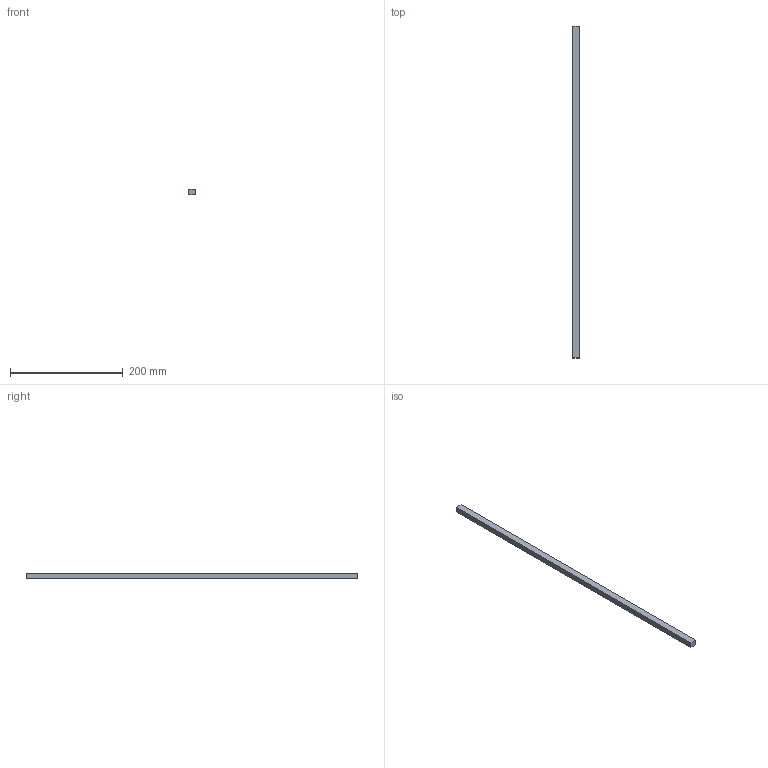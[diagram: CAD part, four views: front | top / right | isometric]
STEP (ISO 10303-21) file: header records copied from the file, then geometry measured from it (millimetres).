
FILE_DESCRIPTION (( 'STEP AP203' ), '1' );
FILE_NAME ('DN51390.STEP', '2025-10-31T07:31:34', ( '' ), ( '' ), 'SwSTEP 2.0', 'SolidWorks 2019', '' );
FILE_SCHEMA (( 'CONFIG_CONTROL_DESIGN' ));
Length unit declared in the file: millimetre
Products named in the file (1): DN51390
Bounding box: 12 x 590 x 10 mm (x, y, z)
Volume: 70800 mm3; surface area: 26200 mm2
Topology: 1 solids, 1 shells, 6 faces, 12 edges, 8 vertices
Faces by surface type: plane 6
Entity records: 233 total; most frequent: CARTESIAN_POINT 27, DIRECTION 26, ORIENTED_EDGE 24, EDGE_CURVE 12, VECTOR 12, LINE 12, VERTEX_POINT 8, PERSON_AND_ORGANIZATION 8
